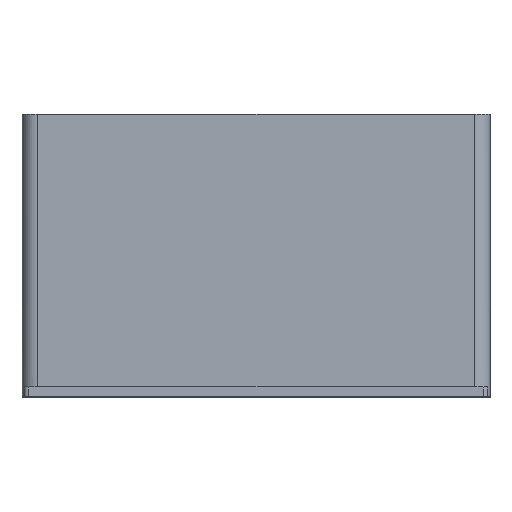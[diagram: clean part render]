
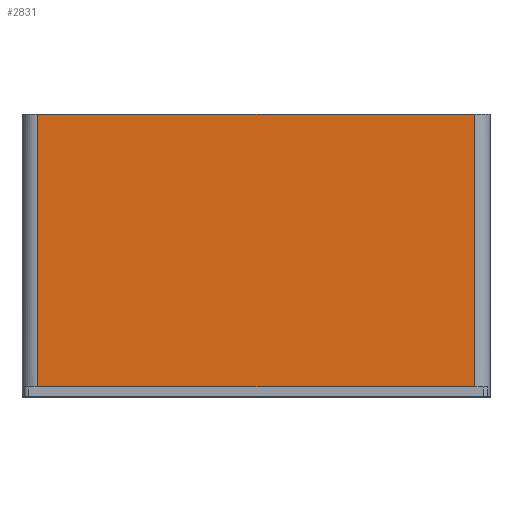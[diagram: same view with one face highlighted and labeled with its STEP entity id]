
A CAD part, top view. The second image highlights one B-rep face of the part: STEP entity #2831.
In plain terms, the highlighted planar face has unit normal (0, 0, 1).
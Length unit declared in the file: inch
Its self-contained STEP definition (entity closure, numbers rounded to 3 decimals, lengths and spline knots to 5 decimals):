
#99 = DIRECTION ( 'NONE',  ( -1., 0., 0. ) ) ;
#108 = VERTEX_POINT ( 'NONE', #3101 ) ;
#157 = EDGE_CURVE ( 'NONE', #2433, #108, #1494, .T. ) ;
#220 = VERTEX_POINT ( 'NONE', #3825 ) ;
#253 = EDGE_CURVE ( 'NONE', #108, #220, #1943, .T. ) ;
#343 = EDGE_LOOP ( 'NONE', ( #1767, #682, #3529, #1670 ) ) ;
#434 = CARTESIAN_POINT ( 'NONE',  ( 0., 0., 47.0472 ) ) ;
#571 = CARTESIAN_POINT ( 'NONE',  ( 1.5748, 1., 47.0472 ) ) ;
#682 = ORIENTED_EDGE ( 'NONE', *, *, #157, .T. ) ;
#708 = LINE ( 'NONE', #2568, #4996 ) ;
#791 = CARTESIAN_POINT ( 'NONE',  ( 45.4724, 1., 47.0472 ) ) ;
#1183 = CARTESIAN_POINT ( 'NONE',  ( 1.5748, 28.3856, 47.0472 ) ) ;
#1417 = FACE_OUTER_BOUND ( 'NONE', #343, .T. ) ;
#1494 = LINE ( 'NONE', #2037, #4824 ) ;
#1670 = ORIENTED_EDGE ( 'NONE', *, *, #1914, .F. ) ;
#1749 = CARTESIAN_POINT ( 'NONE',  ( 0., 28.3856, 47.0472 ) ) ;
#1767 = ORIENTED_EDGE ( 'NONE', *, *, #1822, .F. ) ;
#1822 = EDGE_CURVE ( 'NONE', #2433, #4496, #708, .T. ) ;
#1914 = EDGE_CURVE ( 'NONE', #4496, #220, #2502, .T. ) ;
#1943 = LINE ( 'NONE', #1749, #4298 ) ;
#2037 = CARTESIAN_POINT ( 'NONE',  ( 45.4724, 28.3856, 47.0472 ) ) ;
#2428 = DIRECTION ( 'NONE',  ( 0., 1., 0. ) ) ;
#2433 = VERTEX_POINT ( 'NONE', #791 ) ;
#2502 = LINE ( 'NONE', #1183, #4471 ) ;
#2504 = DIRECTION ( 'NONE',  ( -1., 0., 0. ) ) ;
#2568 = CARTESIAN_POINT ( 'NONE',  ( 23.5236, 1., 47.0472 ) ) ;
#2817 = DIRECTION ( 'NONE',  ( 0., 1., 0. ) ) ;
#2831 = ADVANCED_FACE ( 'NONE', ( #1417 ), #4594, .T. ) ;
#3101 = CARTESIAN_POINT ( 'NONE',  ( 45.4724, 28.3856, 47.0472 ) ) ;
#3310 = AXIS2_PLACEMENT_3D ( 'NONE', #434, #5017, #2504 ) ;
#3529 = ORIENTED_EDGE ( 'NONE', *, *, #253, .T. ) ;
#3825 = CARTESIAN_POINT ( 'NONE',  ( 1.5748, 28.3856, 47.0472 ) ) ;
#4298 = VECTOR ( 'NONE', #99, 39.37008 ) ;
#4471 = VECTOR ( 'NONE', #2817, 39.37008 ) ;
#4496 = VERTEX_POINT ( 'NONE', #571 ) ;
#4594 = PLANE ( 'NONE',  #3310 ) ;
#4824 = VECTOR ( 'NONE', #2428, 39.37008 ) ;
#4996 = VECTOR ( 'NONE', #5085, 39.37008 ) ;
#5017 = DIRECTION ( 'NONE',  ( 0., 0., 1. ) ) ;
#5085 = DIRECTION ( 'NONE',  ( -1., 0., 0. ) ) ;
